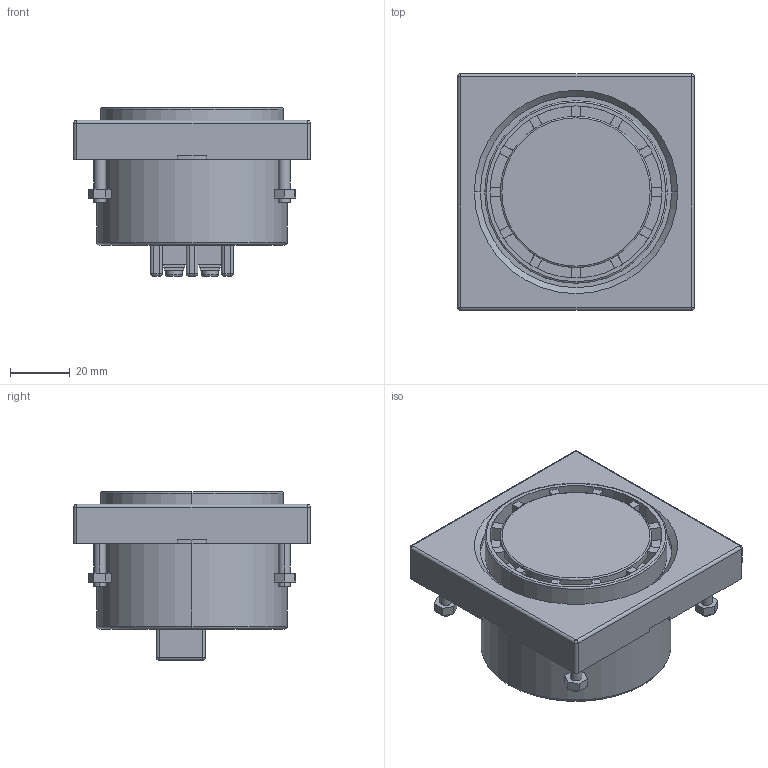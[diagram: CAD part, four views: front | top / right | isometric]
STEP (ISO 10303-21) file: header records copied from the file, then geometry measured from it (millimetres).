
FILE_DESCRIPTION (( 'STEP AP203' ), '1' );
FILE_NAME ('TB6-24.STEP', '2019-01-25T16:52:53', ( '' ), ( '' ), 'SwSTEP 2.0', 'SolidWorks 2012', '' );
FILE_SCHEMA (( 'CONFIG_CONTROL_DESIGN' ));
Length unit declared in the file: millimetre
Products named in the file (1): TB6-24
Bounding box: 79.5 x 79.5 x 56.7 mm (x, y, z)
Volume: 181736.8 mm3; surface area: 35752.5 mm2
Topology: 1 solids, 1 shells, 322 faces, 898 edges, 568 vertices
Faces by surface type: plane 204, cylinder 90, sphere 16, torus 10, cone 2
Entity records: 10277 total; most frequent: DIRECTION 1778, CARTESIAN_POINT 1773, ORIENTED_EDGE 1764, EDGE_CURVE 882, LINE 632, VECTOR 632, AXIS2_PLACEMENT_3D 573, VERTEX_POINT 568
